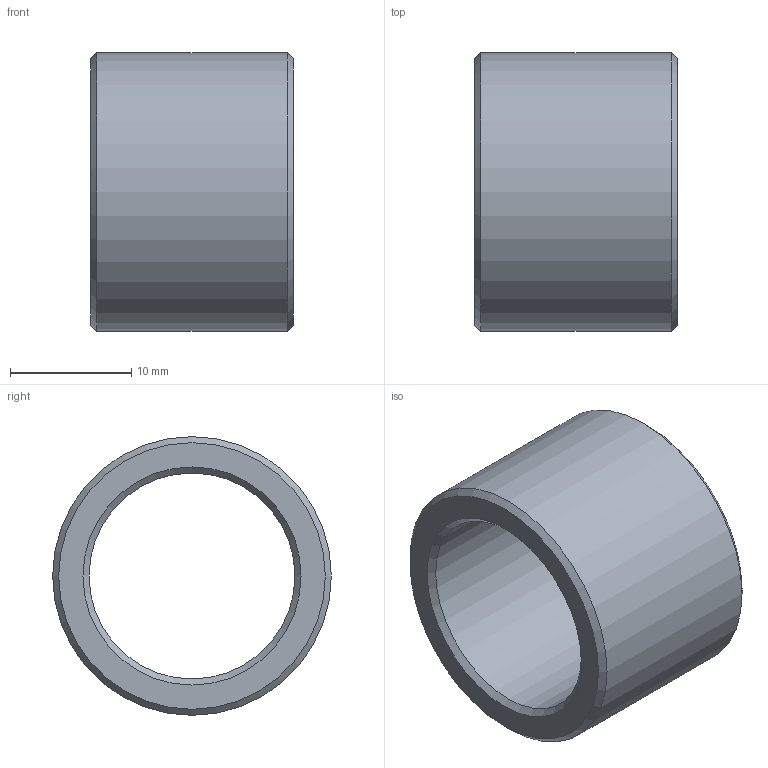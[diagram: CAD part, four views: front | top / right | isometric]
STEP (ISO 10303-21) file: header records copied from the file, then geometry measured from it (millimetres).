
FILE_DESCRIPTION(/* description */ (''),/* implementation_level */ '2;1');
FILE_NAME(/* name */ '',/* time_stamp */ '2026-07-02T16:36:56+09:00',/* author */ ('jhkim'),/* organization */ (''),/* preprocessor_version */ 'ST-DEVELOPER v20.1',/* originating_system */ 'Autodesk Inventor 2027',/* authorisation */ '');
FILE_SCHEMA (('AUTOMOTIVE_DESIGN { 1 0 10303 214 3 1 1 }'));
Length unit declared in the file: millimetre
Products named in the file (1): 칼라
Bounding box: 16.75 x 23 x 23 mm (x, y, z)
Volume: 3125.9 mm3; surface area: 2408.2 mm2
Topology: 1 solids, 1 shells, 8 faces, 16 edges, 10 vertices
Faces by surface type: cone 4, plane 2, cylinder 2
Full cylindrical faces by diameter (mm): 17 x1, 23 x1
Entity records: 261 total; most frequent: DIRECTION 44, CARTESIAN_POINT 35, ORIENTED_EDGE 32, AXIS2_PLACEMENT_3D 19, EDGE_CURVE 16, EDGE_LOOP 10, CIRCLE 10, VERTEX_POINT 10
